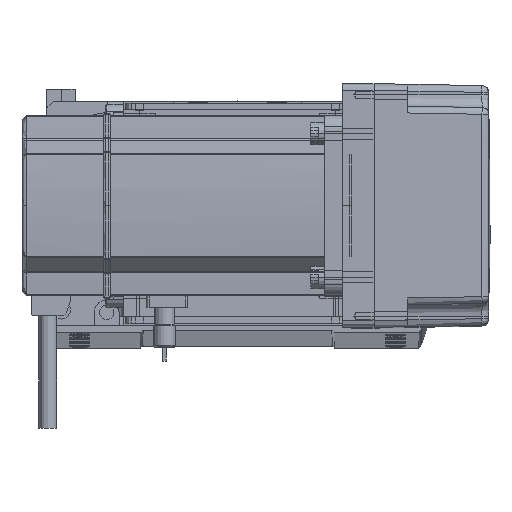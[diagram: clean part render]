
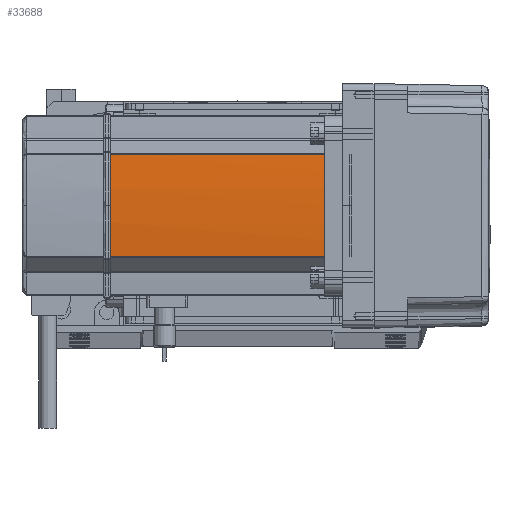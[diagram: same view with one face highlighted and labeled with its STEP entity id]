
A CAD part, top view. The second image highlights one B-rep face of the part: STEP entity #33688.
In plain terms, the highlighted cylindrical face has radius 270 mm (diameter 540 mm), a partial arc.
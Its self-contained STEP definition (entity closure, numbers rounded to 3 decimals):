
#1703 = CARTESIAN_POINT ( 'NONE',  ( -39.042, 22.724, 134. ) ) ;
#2251 = VECTOR ( 'NONE', #31695, 1000. ) ;
#2319 = VERTEX_POINT ( 'NONE', #1703 ) ;
#2979 = AXIS2_PLACEMENT_3D ( 'NONE', #6835, #54860, #17829 ) ;
#3212 = CARTESIAN_POINT ( 'NONE',  ( -39.042, -22.724, 134. ) ) ;
#6037 = EDGE_CURVE ( 'NONE', #60201, #27643, #49561, .T. ) ;
#6835 = CARTESIAN_POINT ( 'NONE',  ( 230., 0., 0. ) ) ;
#15052 = ORIENTED_EDGE ( 'NONE', *, *, #27356, .F. ) ;
#15140 = CARTESIAN_POINT ( 'NONE',  ( -39.042, 22.724, 0. ) ) ;
#15309 = FACE_OUTER_BOUND ( 'NONE', #17980, .T. ) ;
#16347 = DIRECTION ( 'NONE',  ( 0., 0., -1. ) ) ;
#17386 = CARTESIAN_POINT ( 'NONE',  ( 230., 0., 39. ) ) ;
#17829 = DIRECTION ( 'NONE',  ( 1., 0., 0. ) ) ;
#17980 = EDGE_LOOP ( 'NONE', ( #44373, #63015, #43730, #15052, #22324 ) ) ;
#17986 = EDGE_CURVE ( 'NONE', #46274, #60201, #45004, .T. ) ;
#18936 = AXIS2_PLACEMENT_3D ( 'NONE', #55172, #60603, #23590 ) ;
#20521 = EDGE_CURVE ( 'NONE', #2319, #36897, #41876, .T. ) ;
#20558 = DIRECTION ( 'NONE',  ( 0., 0., 1. ) ) ;
#21662 = DIRECTION ( 'NONE',  ( 1., 0., 0. ) ) ;
#21844 = CIRCLE ( 'NONE', #54946, 270. ) ;
#22324 = ORIENTED_EDGE ( 'NONE', *, *, #17986, .T. ) ;
#23590 = DIRECTION ( 'NONE',  ( 1., 0., 0. ) ) ;
#26238 = CIRCLE ( 'NONE', #42022, 270. ) ;
#27356 = EDGE_CURVE ( 'NONE', #46274, #36897, #21844, .T. ) ;
#27643 = VERTEX_POINT ( 'NONE', #36514 ) ;
#31695 = DIRECTION ( 'NONE',  ( 0., 0., -1. ) ) ;
#32807 = DIRECTION ( 'NONE',  ( 0., 0., -1. ) ) ;
#33688 = ADVANCED_FACE ( 'NONE', ( #15309 ), #49096, .T. ) ;
#35911 = CARTESIAN_POINT ( 'NONE',  ( -39.042, 22.724, 39. ) ) ;
#36514 = CARTESIAN_POINT ( 'NONE',  ( -40., 0., 134. ) ) ;
#36897 = VERTEX_POINT ( 'NONE', #35911 ) ;
#37878 = CARTESIAN_POINT ( 'NONE',  ( 230., 0., 134. ) ) ;
#41876 = LINE ( 'NONE', #15140, #2251 ) ;
#42022 = AXIS2_PLACEMENT_3D ( 'NONE', #37878, #16347, #58778 ) ;
#43730 = ORIENTED_EDGE ( 'NONE', *, *, #20521, .T. ) ;
#44373 = ORIENTED_EDGE ( 'NONE', *, *, #6037, .T. ) ;
#45004 = LINE ( 'NONE', #69608, #50927 ) ;
#46274 = VERTEX_POINT ( 'NONE', #60361 ) ;
#49096 = CYLINDRICAL_SURFACE ( 'NONE', #2979, 270. ) ;
#49561 = CIRCLE ( 'NONE', #18936, 270. ) ;
#50927 = VECTOR ( 'NONE', #20558, 1000. ) ;
#54860 = DIRECTION ( 'NONE',  ( 0., 0., 1. ) ) ;
#54946 = AXIS2_PLACEMENT_3D ( 'NONE', #17386, #32807, #21662 ) ;
#55172 = CARTESIAN_POINT ( 'NONE',  ( 230., 0., 134. ) ) ;
#56442 = EDGE_CURVE ( 'NONE', #27643, #2319, #26238, .T. ) ;
#58778 = DIRECTION ( 'NONE',  ( 1., 0., 0. ) ) ;
#60201 = VERTEX_POINT ( 'NONE', #3212 ) ;
#60361 = CARTESIAN_POINT ( 'NONE',  ( -39.042, -22.724, 39. ) ) ;
#60603 = DIRECTION ( 'NONE',  ( 0., 0., -1. ) ) ;
#63015 = ORIENTED_EDGE ( 'NONE', *, *, #56442, .T. ) ;
#69608 = CARTESIAN_POINT ( 'NONE',  ( -39.042, -22.724, 0. ) ) ;
